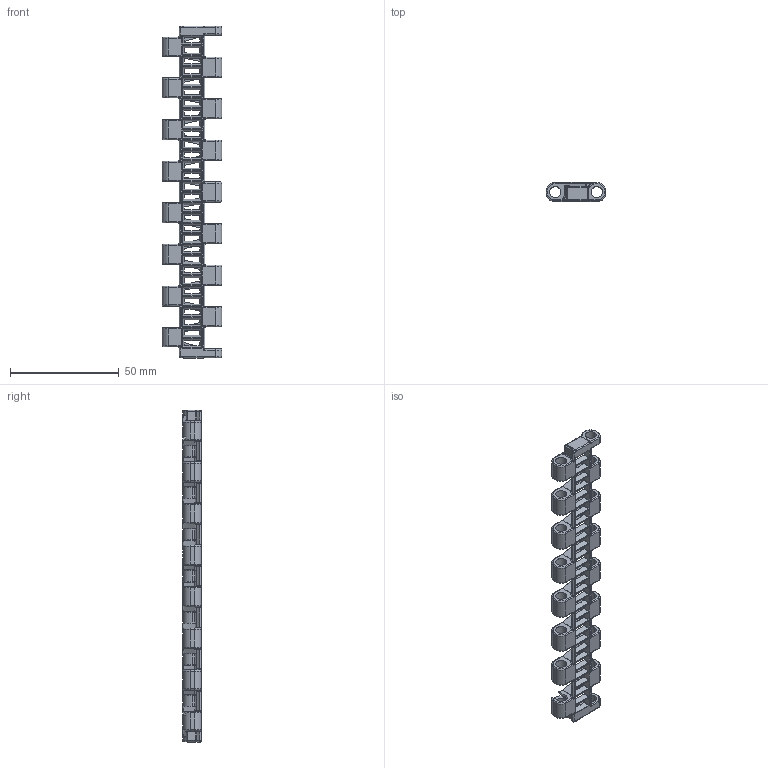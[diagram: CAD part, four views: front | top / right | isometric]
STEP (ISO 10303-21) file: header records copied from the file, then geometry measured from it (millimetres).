
FILE_DESCRIPTION((''),'2;1');
FILE_NAME('P148','2012-03-22T',('jas'),(''),'PRO/ENGINEER BY PARAMETRIC TECHNOLOGY CORPORATION, 2011490','PRO/ENGINEER BY PARAMETRIC TECHNOLOGY CORPORATION, 2011490','');
FILE_SCHEMA(('AUTOMOTIVE_DESIGN { 1 0 10303 214 1 1 1 1 }'));
Products named in the file (1): P148
Bounding box: 27.53 x 8.5 x 152.4 mm (x, y, z)
Volume: 9826.5 mm3; surface area: 13325.8 mm2
Topology: 1 solids, 1 shells, 1814 faces, 4359 edges, 2526 vertices
Faces by surface type: cylinder 768, plane 418, bspline 292, torus 250, sphere 84, cone 2
Entity records: 78096 total; most frequent: CARTESIAN_POINT 37852, ORIENTED_EDGE 8718, DIRECTION 7953, EDGE_CURVE 4359, AXIS2_PLACEMENT_3D 3060, VERTEX_POINT 2526, EDGE_LOOP 1887, VECTOR 1833
